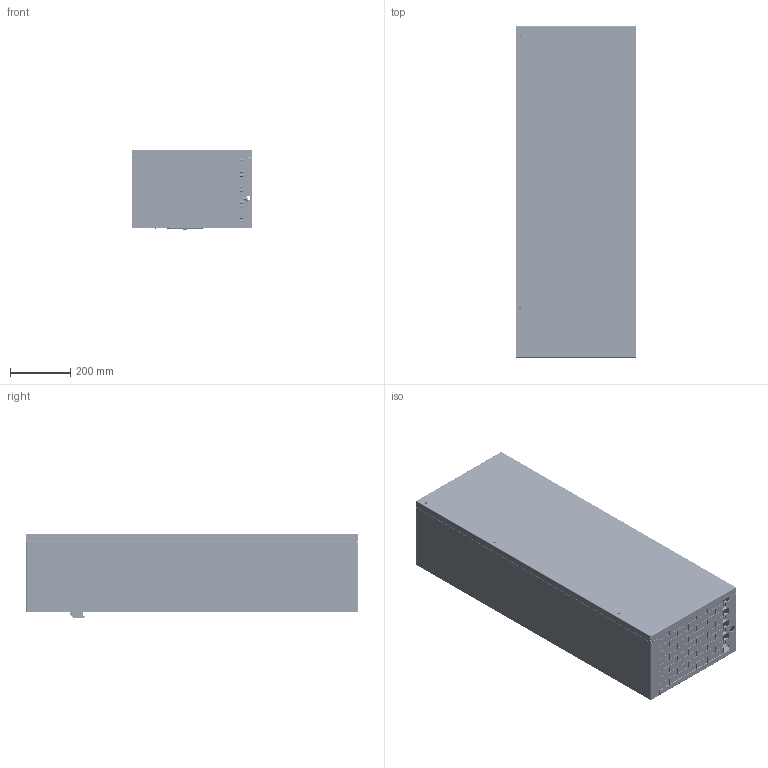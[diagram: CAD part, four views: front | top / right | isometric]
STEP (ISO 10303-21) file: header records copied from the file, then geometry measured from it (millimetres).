
FILE_DESCRIPTION (( 'STEP AP203' ), '1' );
FILE_NAME ('cr430616g002h.STEP', '2011-06-16T17:20:01', ( 'Hoffman User' ), ( 'Hoffman Enclosures' ), 'SwSTEP 2.0', 'SolidWorks 2010', '' );
FILE_SCHEMA (( 'CONFIG_CONTROL_DESIGN' ));
Products named in the file (24): cr430616g002h; 43-7832-05_ASM; 43-2009-00; 43-2014-00; 43-2004-09_ASM; 43-2004-09; 43-2003-12_ASM; 43-2003-12; S-0420-1; 43-7832-00_ASM; 43-2008-00; 36-5000-08; 43-2001-00; 43-2002-01; 43-2010-00; 52-6019-00; 10-1052-08; 10-1061-16_BULB; 1032_375_LOPRO_PHILLIPS; 1024_375_HEX; 38-2023-12; 43-2006-01_ASM; 43-2006-01; FH-024-12
Assembly tree (57 placements, depth 3):
  cr430616g002h
    1024_375_HEX  x28
    10-1052-08
    1032_375_LOPRO_PHILLIPS
    52-6019-00
    43-7832-00_ASM
      36-5000-08
      43-2008-00
    43-2001-00
    10-1061-16_BULB
    38-2023-12
    43-2014-00
    43-2002-01
    43-2006-01_ASM
      FH-024-12
      43-2006-01
    43-2003-12_ASM
      43-2003-12
      S-0420-1  x4
    43-7832-05_ASM
      43-2009-00
    43-2010-00
    43-2004-09_ASM
      S-0420-1  x4
      43-2004-09
Bounding box: 400.18 x 1100.25 x 281.18 mm (x, y, z)
Volume: 14338023.7 mm3; surface area: 4796401.4 mm2
Topology: 50 solids, 52 shells, 5040 faces, 13335 edges, 8355 vertices
Faces by surface type: plane 1946, cylinder 1761, bspline 1190, cone 143
Entity records: 173062 total; most frequent: CARTESIAN_POINT 68924, ORIENTED_EDGE 22665, DIRECTION 18048, EDGE_CURVE 11349, VERTEX_POINT 7192, LINE 6282, VECTOR 6282, AXIS2_PLACEMENT_3D 5883
